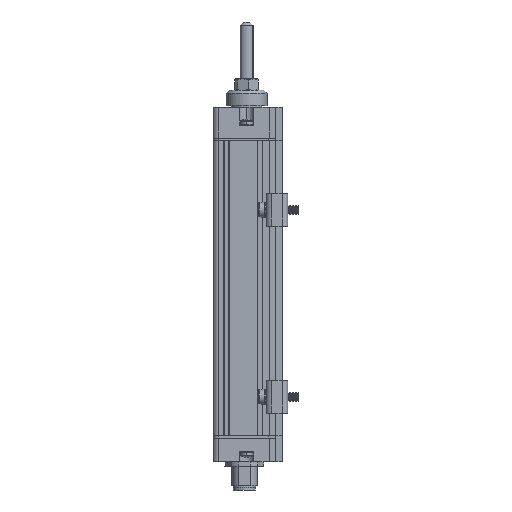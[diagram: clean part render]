
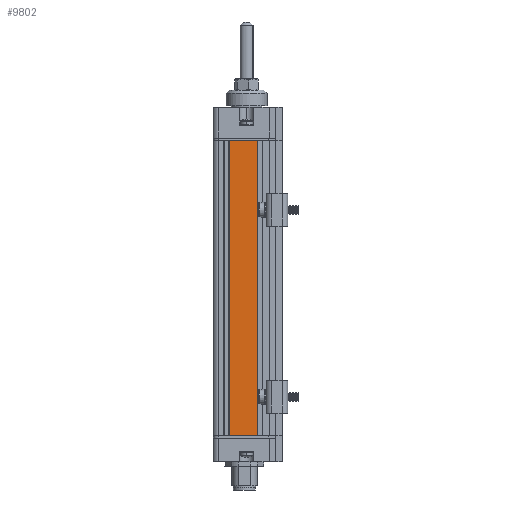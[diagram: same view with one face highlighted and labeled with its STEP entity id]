
A CAD part, left-side view. The second image highlights one B-rep face of the part: STEP entity #9802.
In plain terms, the highlighted planar face has unit normal (-1, 0, 0).
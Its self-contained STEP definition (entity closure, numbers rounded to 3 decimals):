
#1577 = ORIENTED_EDGE ( 'NONE', *, *, #7115, .F. ) ;
#1578 = ORIENTED_EDGE ( 'NONE', *, *, #7116, .F. ) ;
#1579 = ORIENTED_EDGE ( 'NONE', *, *, #7117, .T. ) ;
#1580 = ORIENTED_EDGE ( 'NONE', *, *, #7113, .T. ) ;
#7113 = EDGE_CURVE ( 'NONE', #9502, #9495, #26521, .T. ) ;
#7115 = EDGE_CURVE ( 'NONE', #9497, #9495, #26525, .T. ) ;
#7116 = EDGE_CURVE ( 'NONE', #9504, #9497, #26527, .T. ) ;
#7117 = EDGE_CURVE ( 'NONE', #9504, #9502, #26523, .T. ) ;
#9495 = VERTEX_POINT ( 'NONE', #19311 ) ;
#9497 = VERTEX_POINT ( 'NONE', #19313 ) ;
#9502 = VERTEX_POINT ( 'NONE', #19318 ) ;
#9504 = VERTEX_POINT ( 'NONE', #19320 ) ;
#9802 = ADVANCED_FACE ( 'NONE', ( #15321 ), #20210, .T. ) ;
#15321 = FACE_OUTER_BOUND ( 'NONE', #32721, .T. ) ;
#19311 = CARTESIAN_POINT ( 'NONE',  ( 0., 11.6, 0. ) ) ;
#19313 = CARTESIAN_POINT ( 'NONE',  ( 0., 24.4, 0. ) ) ;
#19318 = CARTESIAN_POINT ( 'NONE',  ( 0., 11.6, -136.5 ) ) ;
#19320 = CARTESIAN_POINT ( 'NONE',  ( 0., 24.4, -136.5 ) ) ;
#20203 = CARTESIAN_POINT ( 'NONE',  ( 0., 11.6, -136.5 ) ) ;
#20210 = PLANE ( 'NONE',  #20879 ) ;
#20212 = DIRECTION ( 'NONE',  ( -1., 0., 0. ) ) ;
#20213 = DIRECTION ( 'NONE',  ( 0., 0., 1. ) ) ;
#20879 = AXIS2_PLACEMENT_3D ( 'NONE', #20203, #20212, #20213 ) ;
#26521 = LINE ( 'NONE', #29004, #26524 ) ;
#26523 = LINE ( 'NONE', #28999, #26532 ) ;
#26524 = VECTOR ( 'NONE', #29006, 1000. ) ;
#26525 = LINE ( 'NONE', #29008, #26528 ) ;
#26527 = LINE ( 'NONE', #29010, #26530 ) ;
#26528 = VECTOR ( 'NONE', #29009, 1000. ) ;
#26530 = VECTOR ( 'NONE', #29012, 1000. ) ;
#26532 = VECTOR ( 'NONE', #29013, 1000. ) ;
#28999 = CARTESIAN_POINT ( 'NONE',  ( 0., 11.6, -136.5 ) ) ;
#29004 = CARTESIAN_POINT ( 'NONE',  ( 0., 11.6, -136.5 ) ) ;
#29006 = DIRECTION ( 'NONE',  ( 0., 0., 1. ) ) ;
#29008 = CARTESIAN_POINT ( 'NONE',  ( 0., 11.6, 0. ) ) ;
#29009 = DIRECTION ( 'NONE',  ( 0., -1., 0. ) ) ;
#29010 = CARTESIAN_POINT ( 'NONE',  ( 0., 24.4, -136.5 ) ) ;
#29012 = DIRECTION ( 'NONE',  ( 0., 0., 1. ) ) ;
#29013 = DIRECTION ( 'NONE',  ( 0., -1., 0. ) ) ;
#32721 = EDGE_LOOP ( 'NONE', ( #1577, #1578, #1579, #1580 ) ) ;
